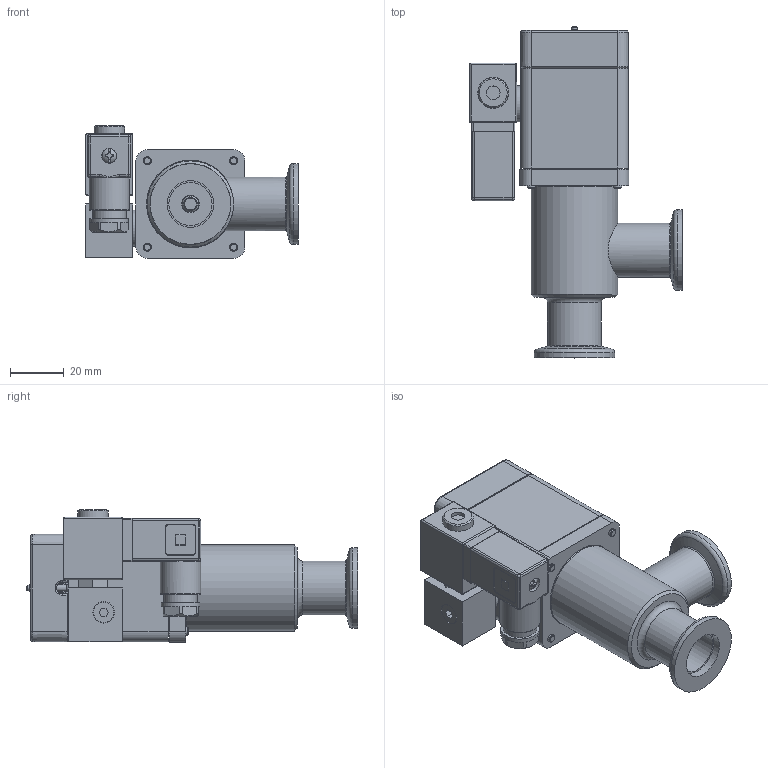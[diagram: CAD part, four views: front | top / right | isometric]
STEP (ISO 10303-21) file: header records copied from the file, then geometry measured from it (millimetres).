
FILE_DESCRIPTION(/* description */ (''),/* implementation_level */ '2;1');
FILE_NAME(/* name */ '1078618800_203.stp',/* time_stamp */ '2013-09-18T13:28:31+02:00',/* author */ (''),/* organization */ (''),/* preprocessor_version */ 'ST-DEVELOPER v11',/* originating_system */ 'SIEMENS PLM Software NX 7.5',/* authorisation */ '');
FILE_SCHEMA (('AP203_CONFIGURATION_CONTROLLED_3D_DESIGN_OF_MECHANICAL_PARTS_AND_ASSEMBLIES_MIM_LF'));
Length unit declared in the file: millimetre
Products named in the file (16): 467882; 437235; 245709.2; 245708.5; 245707.4; 244091.2; 233364; 236204_1.1; 243880.7; 244224.1; 244168.6; 245706.10; N-8501-400.2_MODELNX-ARRAGMNTArrangement 1; 443457; 239982.4; 324537
Assembly tree (19 placements, depth 4):
  324537
    244168.6
    244224.1  x4
    243880.7
    239982.4
      236204_1.1  x2
      233364
    443457
      244091.2
      N-8501-400.2_MODELNX-ARRAGMNTArrangement 1
        437235
        467882
    245706.10
      245707.4
      245708.5
      245709.2
Bounding box: 78.85 x 123.1 x 49.3 mm (x, y, z)
Volume: 93378.8 mm3; surface area: 63888.3 mm2
Topology: 24 solids, 25 shells, 765 faces, 1874 edges, 1218 vertices
Faces by surface type: plane 442, cylinder 184, cone 89, bspline 28, torus 17, sphere 5
Full cylindrical faces by diameter (mm): 2 x2, 2.3 x1, 2.36 x4, 2.4 x4, 2.5 x6, 2.8 x1, 3 x20, 3.4 x4, 4 x2, 4.2 x1, 4.22 x1, 4.7 x3, 4.8 x1, 5 x5, 5.5 x5, 5.6 x2, 6 x4, 6.013 x2, 6.5 x4, 7.4 x1, 7.6 x1, 7.9 x1, 8 x1, 8.85 x1, 10.2 x1, 11.3 x1, 11.4 x1, 11.5 x1, 12.5 x1, 13.5 x1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
Entity records: 24089 total; most frequent: CARTESIAN_POINT 5043, DIRECTION 3280, ORIENTED_EDGE 3032, EDGE_CURVE 1516, AXIS2_PLACEMENT_3D 1182, VERTEX_POINT 1090, EDGE_LOOP 971, LINE 916
